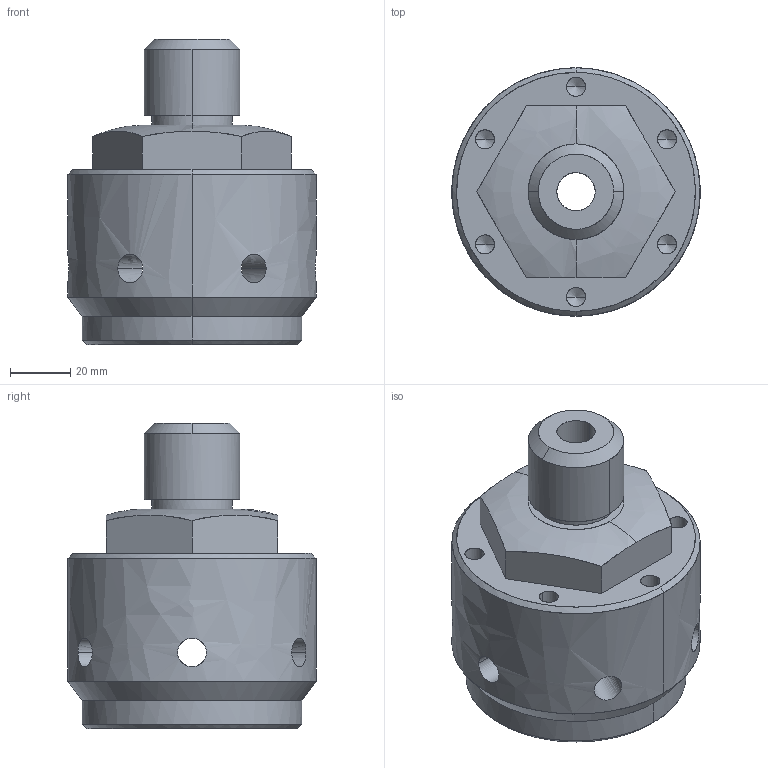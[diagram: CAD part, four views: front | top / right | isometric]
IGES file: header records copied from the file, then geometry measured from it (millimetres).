
Start section: SolidWorks IGES file using analytic representation for surfaces
Global section: file name: C:\Users\md90767\OneDrive - harriscomputer\Desktop\Current Launchpad Projects\V13 - GETTING STARTED\Part Files\Millturn Tutorial Blank IGS.IGS; native system: SolidWorks 2025; preprocessor: SolidWorks 2025; author: md90767; date: 250923.124618; units: inch
Bounding box: 82.55 x 82.55 x 101.6 mm (x, y, z)
Surface area: 42617.5 mm2 (no closed solid volume)
Topology: 0 solids, 0 shells, 78 faces, 1900 edges, 1888 vertices
Faces by surface type: bspline 78
